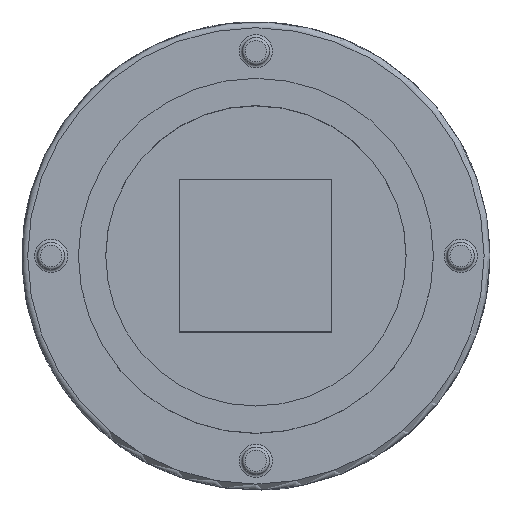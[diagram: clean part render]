
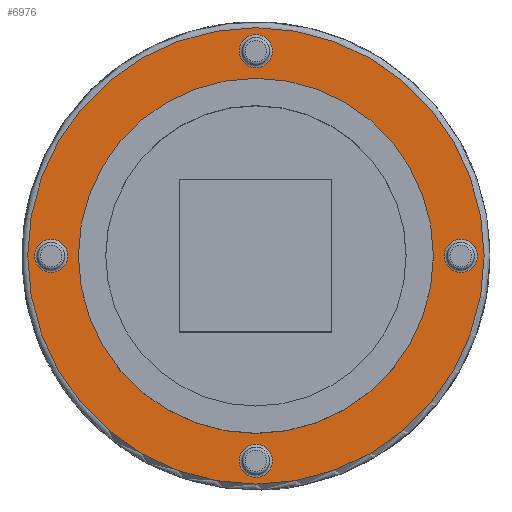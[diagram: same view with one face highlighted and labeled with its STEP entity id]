
A CAD part, top view. The second image highlights one B-rep face of the part: STEP entity #6976.
In plain terms, the highlighted planar face has unit normal (0, 0, 1).
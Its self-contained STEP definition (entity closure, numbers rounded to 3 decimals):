
#142 = VERTEX_POINT ( 'NONE', #1545 ) ;
#271 = AXIS2_PLACEMENT_3D ( 'NONE', #5663, #2709, #348 ) ;
#281 = AXIS2_PLACEMENT_3D ( 'NONE', #5083, #9672, #569 ) ;
#313 = EDGE_LOOP ( 'NONE', ( #330 ) ) ;
#330 = ORIENTED_EDGE ( 'NONE', *, *, #7425, .T. ) ;
#348 = DIRECTION ( 'NONE',  ( 1., 0., 0. ) ) ;
#377 = CARTESIAN_POINT ( 'NONE',  ( -9.65, 0., 1.7 ) ) ;
#569 = DIRECTION ( 'NONE',  ( 1., 0., 0. ) ) ;
#724 = EDGE_CURVE ( 'NONE', #142, #142, #5811, .T. ) ;
#785 = EDGE_CURVE ( 'NONE', #2255, #2255, #9342, .T. ) ;
#968 = ORIENTED_EDGE ( 'NONE', *, *, #9312, .T. ) ;
#1113 = ORIENTED_EDGE ( 'NONE', *, *, #785, .T. ) ;
#1164 = AXIS2_PLACEMENT_3D ( 'NONE', #6654, #8177, #4386 ) ;
#1263 = FACE_OUTER_BOUND ( 'NONE', #4378, .T. ) ;
#1495 = AXIS2_PLACEMENT_3D ( 'NONE', #5611, #9829, #2100 ) ;
#1545 = CARTESIAN_POINT ( 'NONE',  ( 9.1, 0., 1.7 ) ) ;
#1808 = CIRCLE ( 'NONE', #7894, 0.85 ) ;
#1947 = CARTESIAN_POINT ( 'NONE',  ( 11.35, 0., 1.7 ) ) ;
#2100 = DIRECTION ( 'NONE',  ( 1., 0., 0. ) ) ;
#2217 = AXIS2_PLACEMENT_3D ( 'NONE', #7993, #7383, #5781 ) ;
#2255 = VERTEX_POINT ( 'NONE', #6919 ) ;
#2363 = CIRCLE ( 'NONE', #281, 11.7 ) ;
#2496 = VERTEX_POINT ( 'NONE', #1947 ) ;
#2709 = DIRECTION ( 'NONE',  ( 0., 0., -1. ) ) ;
#2768 = EDGE_LOOP ( 'NONE', ( #3791 ) ) ;
#2770 = FACE_BOUND ( 'NONE', #5939, .T. ) ;
#3331 = EDGE_CURVE ( 'NONE', #5652, #5652, #1808, .T. ) ;
#3521 = FACE_BOUND ( 'NONE', #6880, .T. ) ;
#3791 = ORIENTED_EDGE ( 'NONE', *, *, #724, .F. ) ;
#3797 = DIRECTION ( 'NONE',  ( 1., 0., 0. ) ) ;
#3978 = CARTESIAN_POINT ( 'NONE',  ( 10.5, 0., 1.7 ) ) ;
#4139 = ORIENTED_EDGE ( 'NONE', *, *, #3331, .T. ) ;
#4211 = FACE_BOUND ( 'NONE', #2768, .T. ) ;
#4259 = FACE_BOUND ( 'NONE', #9441, .T. ) ;
#4378 = EDGE_LOOP ( 'NONE', ( #8684 ) ) ;
#4386 = DIRECTION ( 'NONE',  ( 1., 0., 0. ) ) ;
#4445 = CARTESIAN_POINT ( 'NONE',  ( -10.5, 0., 1.7 ) ) ;
#4915 = PLANE ( 'NONE',  #2217 ) ;
#5083 = CARTESIAN_POINT ( 'NONE',  ( 0., 0., 1.7 ) ) ;
#5552 = VERTEX_POINT ( 'NONE', #6317 ) ;
#5554 = CIRCLE ( 'NONE', #271, 0.85 ) ;
#5611 = CARTESIAN_POINT ( 'NONE',  ( 0., 0., 1.7 ) ) ;
#5652 = VERTEX_POINT ( 'NONE', #377 ) ;
#5663 = CARTESIAN_POINT ( 'NONE',  ( 0., 10.5, 1.7 ) ) ;
#5781 = DIRECTION ( 'NONE',  ( 1., 0., 0. ) ) ;
#5811 = CIRCLE ( 'NONE', #1495, 9.1 ) ;
#5939 = EDGE_LOOP ( 'NONE', ( #4139 ) ) ;
#6301 = DIRECTION ( 'NONE',  ( 1., 0., 0. ) ) ;
#6317 = CARTESIAN_POINT ( 'NONE',  ( 11.7, 0., 1.7 ) ) ;
#6654 = CARTESIAN_POINT ( 'NONE',  ( 0., -10.5, 1.7 ) ) ;
#6880 = EDGE_LOOP ( 'NONE', ( #1113 ) ) ;
#6919 = CARTESIAN_POINT ( 'NONE',  ( 0.85, -10.5, 1.7 ) ) ;
#6976 = ADVANCED_FACE ( 'NONE', ( #3521, #4259, #9700, #2770, #1263, #4211 ), #4915, .T. ) ;
#7116 = VERTEX_POINT ( 'NONE', #7913 ) ;
#7383 = DIRECTION ( 'NONE',  ( 0., 0., 1. ) ) ;
#7425 = EDGE_CURVE ( 'NONE', #7116, #7116, #5554, .T. ) ;
#7456 = DIRECTION ( 'NONE',  ( 0., 0., -1. ) ) ;
#7794 = EDGE_CURVE ( 'NONE', #5552, #5552, #2363, .T. ) ;
#7854 = AXIS2_PLACEMENT_3D ( 'NONE', #3978, #8668, #6301 ) ;
#7894 = AXIS2_PLACEMENT_3D ( 'NONE', #4445, #7456, #3797 ) ;
#7913 = CARTESIAN_POINT ( 'NONE',  ( 0.85, 10.5, 1.7 ) ) ;
#7993 = CARTESIAN_POINT ( 'NONE',  ( 0., 0., 1.7 ) ) ;
#8177 = DIRECTION ( 'NONE',  ( 0., 0., -1. ) ) ;
#8668 = DIRECTION ( 'NONE',  ( 0., 0., -1. ) ) ;
#8684 = ORIENTED_EDGE ( 'NONE', *, *, #7794, .T. ) ;
#9312 = EDGE_CURVE ( 'NONE', #2496, #2496, #9621, .T. ) ;
#9342 = CIRCLE ( 'NONE', #1164, 0.85 ) ;
#9441 = EDGE_LOOP ( 'NONE', ( #968 ) ) ;
#9621 = CIRCLE ( 'NONE', #7854, 0.85 ) ;
#9672 = DIRECTION ( 'NONE',  ( 0., 0., 1. ) ) ;
#9700 = FACE_BOUND ( 'NONE', #313, .T. ) ;
#9829 = DIRECTION ( 'NONE',  ( 0., 0., 1. ) ) ;
